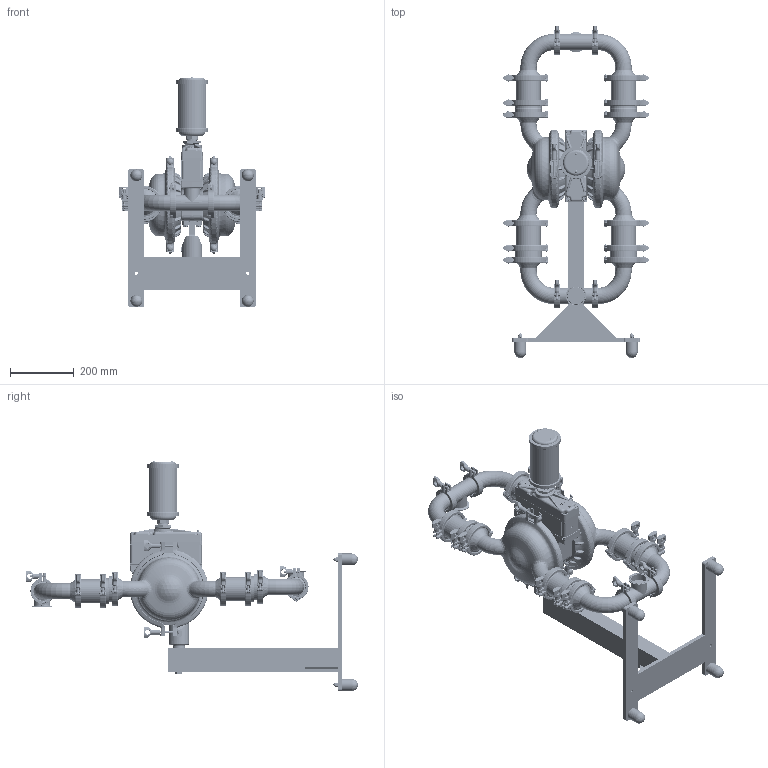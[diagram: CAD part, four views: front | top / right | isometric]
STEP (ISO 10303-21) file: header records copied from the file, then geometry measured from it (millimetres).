
FILE_DESCRIPTION (( 'STEP AP203' ), '1' );
FILE_NAME ('ps8_ss_saniflo_hs_flap_swivel.STEP', '2022-06-23T10:14:38', ( '' ), ( '' ), 'SwSTEP 2.0', 'SolidWorks 2019', '' );
FILE_SCHEMA (( 'CONFIG_CONTROL_DESIGN' ));
Products named in the file (1): ps8_ss_saniflo_hs_flap_swivel
Bounding box: 460.1 x 1040.71 x 721.37 mm (x, y, z)
Volume: 20542617.4 mm3; surface area: 1750432.5 mm2
Topology: 1 solids, 1 shells, 11618 faces, 29114 edges, 17577 vertices
Faces by surface type: plane 4113, cylinder 2612, bspline 2195, torus 1612, cone 688, sphere 398
Entity records: 660085 total; most frequent: CARTESIAN_POINT 400423, ORIENTED_EDGE 57644, DIRECTION 50015, EDGE_CURVE 28822, AXIS2_PLACEMENT_3D 18488, VERTEX_POINT 17505, LINE 13039, VECTOR 13039
